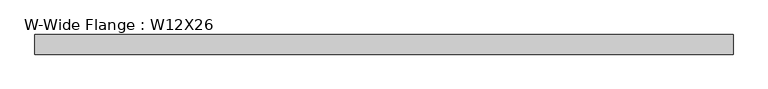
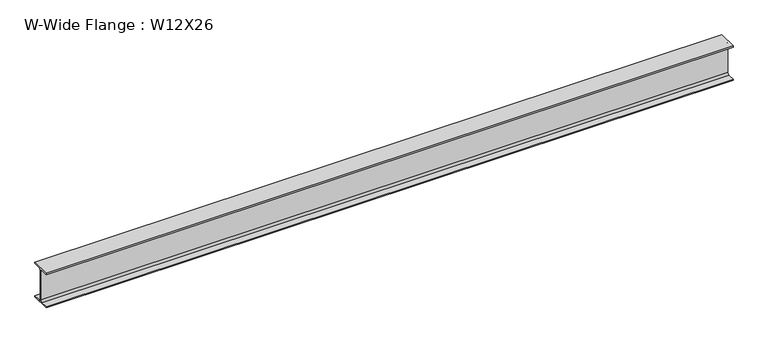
"""IFC4 building model written with IfcOpenShell, lengths in millimetres: beam geometry, W-Wide Flange : W12X26."""

from ifc_helpers import new_model, si_unit, point, frame, frame_2d, origin, place, context, project, spatial, polyline, circle_curve, trimmed, segment, composite_curve, outline, extrude, source, transform, mapped, element, save


def w_wide_flange_w12x26_8d2920dd(model_context):
    return source(origin(), model_context, "Body", "SweptSolid", [
        extrude(outline(composite_curve([segment(polyline([(82.4011719, -145.5539063), (82.4011719, -155.178125), (-82.4011719, -155.178125), (-82.4011719, -145.5539063), (-20.2902344, -145.5539063)]), True, "CONTINUOUS"), segment(trimmed(circle_curve(frame_2d((-20.2902344, -128.190625)), 17.3632812), [point((-20.2902344, -145.5539063))], [point((-2.9269531, -128.190625))], True, "CARTESIAN"), True, "CONTINUOUS"), segment(polyline([(-2.9269531, -128.190625), (-2.9269531, 128.190625)]), True, "CONTINUOUS"), segment(trimmed(circle_curve(frame_2d((-20.2902344, 128.190625)), 17.3632812), [point((-2.9269531, 128.190625))], [point((-20.2902344, 145.5539062))], True, "CARTESIAN"), True, "CONTINUOUS"), segment(polyline([(-20.2902344, 145.5539062), (-82.4011719, 145.5539062), (-82.4011719, 155.178125), (82.4011719, 155.178125), (82.4011719, 145.5539062), (20.2902344, 145.5539062)]), True, "CONTINUOUS"), segment(trimmed(circle_curve(frame_2d((20.2902344, 128.190625)), 17.3632812), [point((20.2902344, 145.5539062))], [point((2.9269531, 128.190625))], True, "CARTESIAN"), True, "CONTINUOUS"), segment(polyline([(2.9269531, 128.190625), (2.9269531, -128.190625)]), True, "CONTINUOUS"), segment(trimmed(circle_curve(frame_2d((20.2902344, -128.190625)), 17.3632812), [point((2.9269531, -128.190625))], [point((20.2902344, -145.5539063))], True, "CARTESIAN"), True, "CONTINUOUS"), segment(polyline([(20.2902344, -145.5539063), (82.4011719, -145.5539063)]), True, "CONTINUOUS")], self_intersect=False)), frame((-2934.1960937, 0.0, 0.0), z_axis=(1.0, 0.0, 0.0), x_axis=(0.0, 1.0, 0.0)), (0.0, 0.0, 1.0), 5868.3921875),
    ])


if __name__ == "__main__":
    model = new_model("IFC4")
    model_context = context("Model", 3, world=origin())
    ifc_project = project(units=[si_unit("LENGTHUNIT", "METRE", prefix="MILLI")], contexts=[model_context])
    site = spatial("IfcSite", under=ifc_project)
    building = spatial("IfcBuilding", under=site)
    placement = place(None, origin())
    w_wide_flange_w12x26_shape = w_wide_flange_w12x26_8d2920dd(model_context)
    element("IfcBeam", 1, ObjectType="W-Wide Flange : W12X26", at=placement, inside=building, context=model_context, shape_type="MappedRepresentation", body=[
        mapped(w_wide_flange_w12x26_shape, transform((0.0, 0.0, 0.0), x_axis=(1.0, 0.0, 0.0), y_axis=(0.0, 1.0, 0.0), z_axis=(0.0, 0.0, 1.0))),
    ])
    save(model, "model.ifc")
